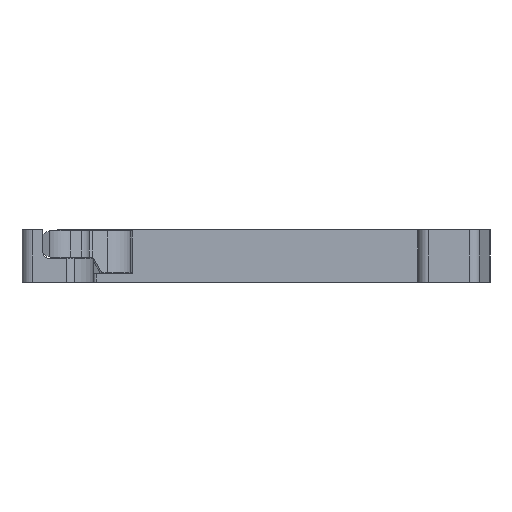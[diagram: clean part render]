
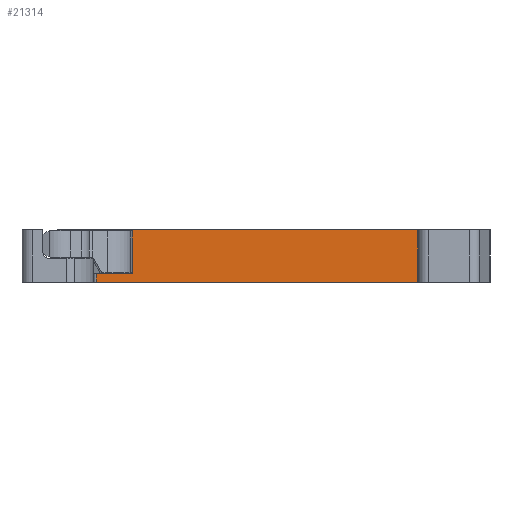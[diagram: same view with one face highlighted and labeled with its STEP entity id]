
A CAD part, front view. The second image highlights one B-rep face of the part: STEP entity #21314.
In plain terms, the highlighted planar face has unit normal (0, -1, 0).
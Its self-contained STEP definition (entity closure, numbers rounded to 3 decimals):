
#38 = EDGE_CURVE ( 'NONE', #21632, #101, #21466, .T. ) ;
#101 = VERTEX_POINT ( 'NONE', #21718 ) ;
#164 = VERTEX_POINT ( 'NONE', #15376 ) ;
#174 = ORIENTED_EDGE ( 'NONE', *, *, #38, .F. ) ;
#807 = CARTESIAN_POINT ( 'NONE',  ( -1.529, -5.88, -16.666 ) ) ;
#1184 = EDGE_LOOP ( 'NONE', ( #21636, #11198, #3521, #10606, #16309, #24363, #174, #24847 ) ) ;
#1664 = CARTESIAN_POINT ( 'NONE',  ( 26.426, -5.88, -12.466 ) ) ;
#2068 = CARTESIAN_POINT ( 'NONE',  ( 26.426, -5.88, -15.166 ) ) ;
#2605 = VECTOR ( 'NONE', #10809, 1000. ) ;
#2846 = DIRECTION ( 'NONE',  ( 1., 0., 0. ) ) ;
#2885 = DIRECTION ( 'NONE',  ( 0., 0., 1. ) ) ;
#3123 = LINE ( 'NONE', #807, #22496 ) ;
#3521 = ORIENTED_EDGE ( 'NONE', *, *, #5634, .F. ) ;
#4583 = VERTEX_POINT ( 'NONE', #2068 ) ;
#4986 = LINE ( 'NONE', #17238, #20853 ) ;
#4999 = LINE ( 'NONE', #9922, #18913 ) ;
#5280 = EDGE_CURVE ( 'NONE', #164, #19455, #26062, .T. ) ;
#5299 = VECTOR ( 'NONE', #19802, 1000. ) ;
#5634 = EDGE_CURVE ( 'NONE', #21157, #164, #3123, .T. ) ;
#5652 = VECTOR ( 'NONE', #2846, 1000. ) ;
#6126 = DIRECTION ( 'NONE',  ( 1., 0., 0. ) ) ;
#6474 = DIRECTION ( 'NONE',  ( 0., 1., 0. ) ) ;
#6655 = VECTOR ( 'NONE', #6126, 1000. ) ;
#7311 = CARTESIAN_POINT ( 'NONE',  ( -1.529, -5.88, -16.666 ) ) ;
#8941 = CARTESIAN_POINT ( 'NONE',  ( -4.968, -5.88, -12.466 ) ) ;
#9199 = LINE ( 'NONE', #7311, #5299 ) ;
#9922 = CARTESIAN_POINT ( 'NONE',  ( 26.426, -5.88, -15.166 ) ) ;
#10001 = VERTEX_POINT ( 'NONE', #24242 ) ;
#10606 = ORIENTED_EDGE ( 'NONE', *, *, #11344, .F. ) ;
#10635 = CARTESIAN_POINT ( 'NONE',  ( 28.32, -5.88, -12.466 ) ) ;
#10792 = EDGE_CURVE ( 'NONE', #4583, #21632, #22167, .T. ) ;
#10809 = DIRECTION ( 'NONE',  ( 0., 0., -1. ) ) ;
#11111 = FACE_OUTER_BOUND ( 'NONE', #1184, .T. ) ;
#11198 = ORIENTED_EDGE ( 'NONE', *, *, #5280, .F. ) ;
#11344 = EDGE_CURVE ( 'NONE', #24079, #21157, #9199, .T. ) ;
#11413 = VECTOR ( 'NONE', #25325, 1000. ) ;
#11463 = EDGE_CURVE ( 'NONE', #10001, #101, #4986, .T. ) ;
#11649 = CARTESIAN_POINT ( 'NONE',  ( -1.529, -5.88, -16.666 ) ) ;
#11936 = LINE ( 'NONE', #8941, #2605 ) ;
#12346 = DIRECTION ( 'NONE',  ( -1., 0., 0. ) ) ;
#12610 = CARTESIAN_POINT ( 'NONE',  ( 28.32, -5.88, -12.466 ) ) ;
#13623 = DIRECTION ( 'NONE',  ( 1., 0., 0. ) ) ;
#15376 = CARTESIAN_POINT ( 'NONE',  ( -1.529, -5.88, -12.466 ) ) ;
#16309 = ORIENTED_EDGE ( 'NONE', *, *, #17374, .T. ) ;
#17016 = CARTESIAN_POINT ( 'NONE',  ( 28.32, -5.88, -12.466 ) ) ;
#17238 = CARTESIAN_POINT ( 'NONE',  ( 28.32, -5.88, -17.466 ) ) ;
#17374 = EDGE_CURVE ( 'NONE', #24079, #10001, #11936, .T. ) ;
#18913 = VECTOR ( 'NONE', #26091, 1000. ) ;
#19455 = VERTEX_POINT ( 'NONE', #1664 ) ;
#19802 = DIRECTION ( 'NONE',  ( 1., 0., 0. ) ) ;
#20225 = AXIS2_PLACEMENT_3D ( 'NONE', #10635, #6474, #12346 ) ;
#20853 = VECTOR ( 'NONE', #13623, 1000. ) ;
#21157 = VERTEX_POINT ( 'NONE', #11649 ) ;
#21314 = ADVANCED_FACE ( 'NONE', ( #11111 ), #23037, .F. ) ;
#21466 = LINE ( 'NONE', #17016, #11413 ) ;
#21632 = VERTEX_POINT ( 'NONE', #23854 ) ;
#21636 = ORIENTED_EDGE ( 'NONE', *, *, #24228, .T. ) ;
#21718 = CARTESIAN_POINT ( 'NONE',  ( 28.32, -5.88, -17.466 ) ) ;
#22167 = LINE ( 'NONE', #23169, #5652 ) ;
#22496 = VECTOR ( 'NONE', #2885, 1000. ) ;
#23037 = PLANE ( 'NONE',  #20225 ) ;
#23169 = CARTESIAN_POINT ( 'NONE',  ( 28.32, -5.88, -15.166 ) ) ;
#23854 = CARTESIAN_POINT ( 'NONE',  ( 28.32, -5.88, -15.166 ) ) ;
#24079 = VERTEX_POINT ( 'NONE', #25193 ) ;
#24228 = EDGE_CURVE ( 'NONE', #4583, #19455, #4999, .T. ) ;
#24242 = CARTESIAN_POINT ( 'NONE',  ( -4.968, -5.88, -17.466 ) ) ;
#24363 = ORIENTED_EDGE ( 'NONE', *, *, #11463, .T. ) ;
#24847 = ORIENTED_EDGE ( 'NONE', *, *, #10792, .F. ) ;
#25193 = CARTESIAN_POINT ( 'NONE',  ( -4.968, -5.88, -16.666 ) ) ;
#25325 = DIRECTION ( 'NONE',  ( 0., 0., -1. ) ) ;
#26062 = LINE ( 'NONE', #12610, #6655 ) ;
#26091 = DIRECTION ( 'NONE',  ( 0., 0., 1. ) ) ;
